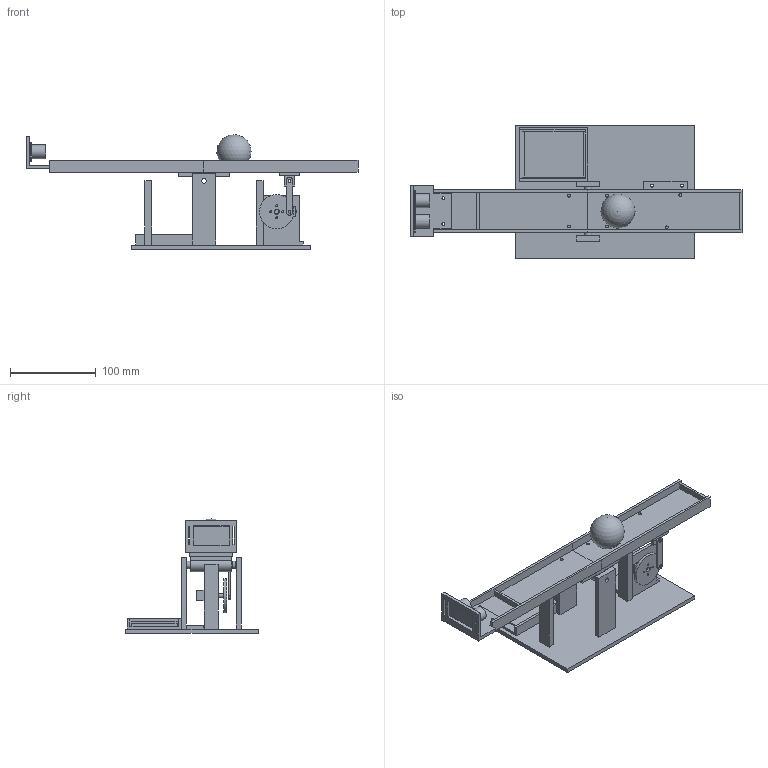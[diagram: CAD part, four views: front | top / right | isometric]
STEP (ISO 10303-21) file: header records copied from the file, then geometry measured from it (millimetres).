
FILE_DESCRIPTION(('Open CASCADE Model'),'2;1');
FILE_NAME('Open CASCADE Shape Model','2026-10-22T20:31:16',('Author'),( 'Open CASCADE'),'Open CASCADE STEP processor 7.8','Open CASCADE 7.8' ,'Unknown');
FILE_SCHEMA(('AUTOMOTIVE_DESIGN { 1 0 10303 214 1 1 1 1 }'));
Length unit declared in the file: millimetre
Products named in the file (17): 0f10a47e-ce79-11f1-8ce5-0d5345f1f01a; 01_Base_and_fulcrum; 02_Track_left; 03_Track_right; 04_Pivot_saddle_splice; 05_Drive_shoe; 06_SG90_mount; 07_Servo_crank_wheel; 08_Connecting_rod_36mm; 09_CS100A_adjustable_mount; 10_Arduino_Uno_tray; 11_Pivot_spacer; 12_Pivot_spacer; REF_SG90_case_verify_actual; REF_CS100A_KS0504_49x22_board; REF_Uno_68p6x53p4_envelope; REF_40mm_ball
Assembly tree (16 placements, depth 2):
  0f10a47e-ce79-11f1-8ce5-0d5345f1f01a
    01_Base_and_fulcrum
    02_Track_left
    03_Track_right
    04_Pivot_saddle_splice
    05_Drive_shoe
    06_SG90_mount
    07_Servo_crank_wheel
    08_Connecting_rod_36mm
    09_CS100A_adjustable_mount
    10_Arduino_Uno_tray
    11_Pivot_spacer
    12_Pivot_spacer
    REF_SG90_case_verify_actual
    REF_CS100A_KS0504_49x22_board
    REF_Uno_68p6x53p4_envelope
    REF_40mm_ball
Bounding box: 388 x 155 x 134 mm (x, y, z)
Volume: 445081.8 mm3; surface area: 214661 mm2
Topology: 16 solids, 16 shells, 252 faces, 644 edges, 428 vertices
Faces by surface type: plane 194, cylinder 57, sphere 1
Full cylindrical faces by diameter (mm): 2.2 x6, 3.3 x4, 3.4 x32, 5 x1, 5.3 x5, 6 x1, 9 x2, 16 x2, 40 x1
Entity records: 16362 total; most frequent: CARTESIAN_POINT 2806, DIRECTION 2408, LINE 1532, VECTOR 1532, ORIENTED_EDGE 1282, PCURVE 1282, DEFINITIONAL_REPRESENTATION 1282, EDGE_CURVE 641
